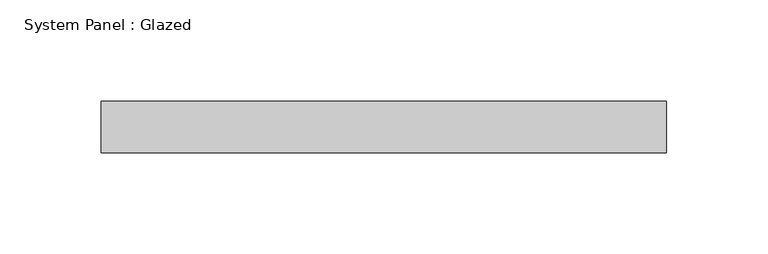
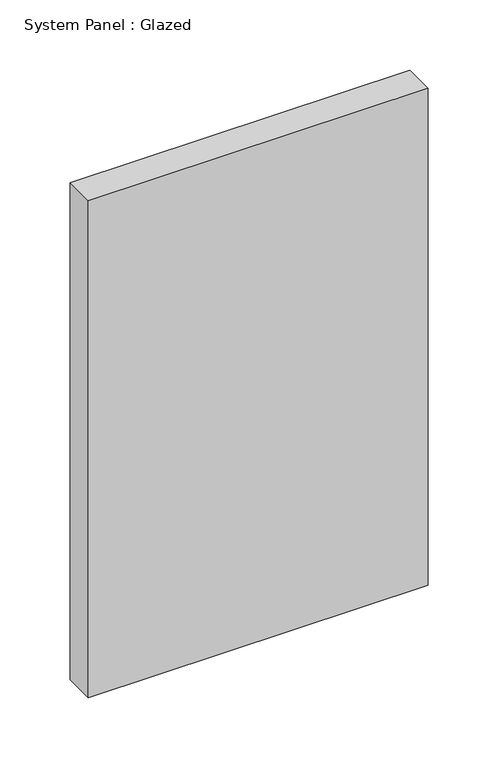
"""IFC4 building model written with IfcOpenShell, lengths in millimetres: plate geometry, System Panel : Glazed."""

from ifc_helpers import new_model, si_unit, origin, origin_with_axes, place, context, project, spatial, polyline, outline, extrude, source, transform, mapped, element, save


def system_panel_glazed_3cdbc382(model_context):
    return source(origin(), model_context, "Body", "SweptSolid", [
        extrude(outline(polyline([(139.6999998, -44.45), (-139.6999998, -44.45), (-139.6999998, -19.05), (139.6999998, -19.05), (139.6999998, -44.45)])), origin_with_axes(), (0.0, 0.0, 1.0), 431.8),
    ])


if __name__ == "__main__":
    model = new_model("IFC4")
    model_context = context("Model", 3, world=origin())
    ifc_project = project(units=[si_unit("LENGTHUNIT", "METRE", prefix="MILLI")], contexts=[model_context])
    site = spatial("IfcSite", under=ifc_project)
    building = spatial("IfcBuilding", under=site)
    placement = place(None, origin())
    system_panel_glazed_shape = system_panel_glazed_3cdbc382(model_context)
    element("IfcPlate", 1, ObjectType="System Panel : Glazed", at=placement, inside=building, context=model_context, shape_type="MappedRepresentation", body=[
        mapped(system_panel_glazed_shape, transform((0.0, 0.0, 0.0), x_axis=(1.0, 0.0, 0.0), y_axis=(0.0, 1.0, 0.0), z_axis=(0.0, 0.0, 1.0))),
    ])
    save(model, "model.ifc")
